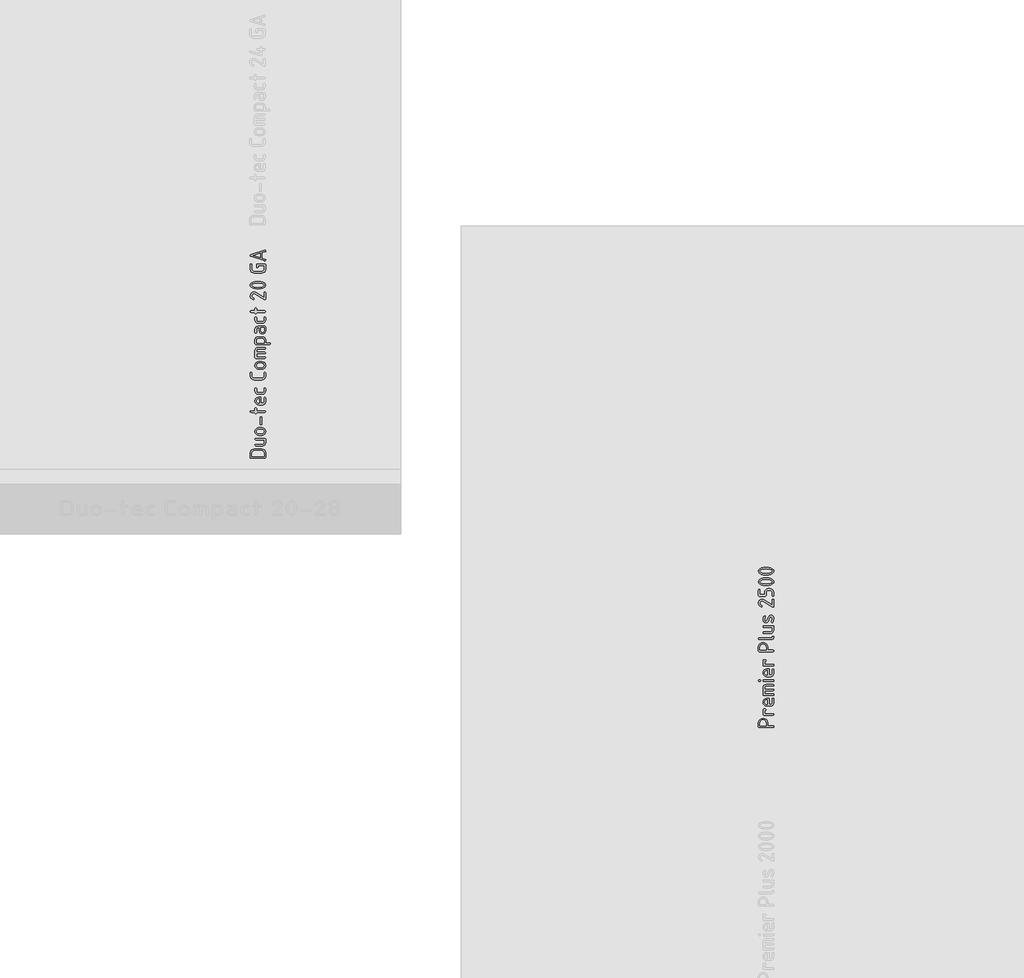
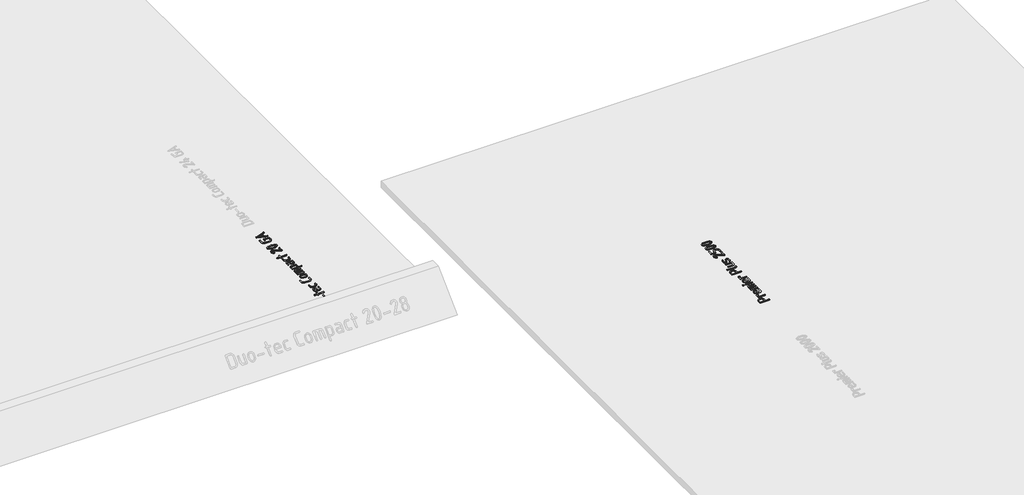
# One storey, part 27 of 37: 2 proxies.
"""IFC4 building model written with IfcOpenShell, lengths in millimetres."""

from ifc_helpers import new_model, si_unit, frame, origin, origin_with_axes, place, context, project, spatial, polyline, outline, extrude, element, save

model = new_model("IFC4")

# Units and contexts
model_context = context("Model", 3, world=origin())
ifc_project = project(units=[si_unit("LENGTHUNIT", "METRE", prefix="MILLI")], contexts=[model_context])

# Site, building, storey
site = spatial("IfcSite", under=ifc_project)
building = spatial("IfcBuilding", under=site)
storey = spatial("IfcBuildingStorey", under=building, Name="01_Стартовый вид_Площадка", Elevation=0.0)

# Proxies
placement = place(None, origin())
element("IfcBuildingElementProxy", 1, Name="150 мм", ObjectType="150 мм", at=placement, inside=storey, context=model_context, shape_type="SweptSolid", body=[
    extrude(outline(polyline([(30764.4863843, -7172.0443733), (30764.4863843, -7134.7695286), (30767.8423188, -7117.5154305), (30777.9101226, -7103.0679324), (30792.7721185, -7093.2847838), (30810.5106299, -7090.0237343), (30829.0481732, -7093.1149895), (30843.7503628, -7102.3887551), (30853.3387473, -7116.6065315), (30856.5348755, -7134.529819), (30856.5348755, -7164.1739077), (30907.9925389, -7164.1739077), (30913.50586, -7166.0915846), (30915.3436337, -7171.8446153), (30913.4559205, -7177.597646), (30907.7927809, -7179.5153229), (30772.0372371, -7179.5153229), (30766.3740975, -7177.6475855), (30764.4863843, -7172.0443733)]), holes=[polyline([(30779.8277995, -7164.1739077), (30841.1934603, -7164.1739077), (30841.1934603, -7134.7695286), (30838.9711524, -7123.3783281), (30832.3042288, -7113.8948165), (30822.4112133, -7107.4975662), (30810.5106299, -7105.3651495), (30798.6100464, -7107.4975662), (30788.7170309, -7113.8948165), (30782.0501073, -7123.3783281), (30779.8277995, -7134.7695286), (30779.8277995, -7164.1739077)])]), frame((0.0, 0.0, 11.1696829), z_axis=(0.0, 0.0, 1.0), x_axis=(1.0, 0.0, 0.0)), (0.0, 0.0, 1.0), 10.0),
    extrude(outline(polyline([(30817.9815795, -7059.3409039), (30812.3783673, -7057.423227), (30810.5106299, -7051.6701963), (30810.5106299, -7006.4849343), (30812.4283068, -7000.8817222), (30818.1813375, -6999.0139848), (30833.3629463, -6999.0139848), (30838.9961221, -7000.8817222), (30840.8738474, -7006.4849343), (30838.9961221, -7012.1181102), (30833.3629463, -7013.9958355), (30825.8520451, -7013.9958355), (30825.8520451, -7043.9994887), (30907.8726841, -7043.9994887), (30913.4758963, -7045.9171656), (30915.3436337, -7051.6701963), (30913.4758963, -7057.423227), (30907.8726841, -7059.3409039), (30817.9815795, -7059.3409039)])), frame((0.0, 0.0, 11.1696829), z_axis=(0.0, 0.0, 1.0), x_axis=(1.0, 0.0, 0.0)), (0.0, 0.0, 1.0), 10.0),
    extrude(outline(polyline([(30869.3193881, -6954.5079), (30884.6608033, -6954.5079), (30895.4677117, -6950.0732722), (30900.0022185, -6939.5260493), (30900.0022185, -6902.0114949), (30901.9198954, -6896.378319), (30907.6729261, -6894.5005937), (30913.4259568, -6896.378319), (30915.3436337, -6902.0114949), (30915.3436337, -6939.5260493), (30913.1762593, -6951.1819292), (30906.6741361, -6960.9800596), (30897.0158363, -6967.6320013), (30885.3799322, -6969.8493152), (30847.945281, -6969.8493152), (30833.5527164, -6967.0676849), (30821.4573688, -6958.7227941), (30813.2473146, -6946.482622), (30810.5106299, -6932.0151481), (30813.1674114, -6917.4378073), (30821.137756, -6905.3474537), (30832.983406, -6897.2123087), (30847.2661038, -6894.5005937), (30869.3193881, -6894.5005937), (30869.3193881, -6954.5079)]), holes=[polyline([(30823.9743198, -6932.0151481), (30825.6223234, -6940.6446941), (30830.5663341, -6947.9158857), (30837.8375257, -6952.8598965), (30846.4670717, -6954.5079), (30853.9779729, -6954.5079), (30853.9779729, -6909.5223961), (30846.4670717, -6909.5223961), (30837.8375257, -6911.1703997), (30830.5663341, -6916.1144104), (30825.6223234, -6923.385602), (30823.9743198, -6932.0151481)])]), frame((0.0, 0.0, 11.1696829), z_axis=(0.0, 0.0, 1.0), x_axis=(1.0, 0.0, 0.0)), (0.0, 0.0, 1.0), 10.0),
    extrude(outline(polyline([(30810.5106299, -6857.3456038), (30810.5106299, -6788.3092354), (30812.6780043, -6776.4086519), (30819.1801275, -6766.5156365), (30828.8384273, -6759.8487129), (30840.4743314, -6757.626405), (30907.8726841, -6757.626405), (30913.4758963, -6759.5440819), (30915.3436337, -6765.2971126), (30913.4758963, -6771.0501433), (30907.8726841, -6772.9678202), (30840.7539926, -6772.9678202), (30830.1468423, -6777.3824722), (30825.8520451, -6788.3092354), (30825.8520451, -6803.6506506), (30907.8726841, -6803.6506506), (30913.4758963, -6805.5683275), (30915.3436337, -6811.3213582), (30913.4758963, -6817.0743889), (30907.8726841, -6818.9920658), (30825.8520451, -6818.9920658), (30825.8520451, -6849.6748962), (30907.8726841, -6849.6748962), (30913.4758963, -6851.5925731), (30915.3436337, -6857.3456038), (30913.4758963, -6863.0986345), (30907.8726841, -6865.0163114), (30817.9815795, -6865.0163114), (30812.3783673, -6863.0986345), (30810.5106299, -6857.3456038)])), frame((0.0, 0.0, 11.1696829), z_axis=(0.0, 0.0, 1.0), x_axis=(1.0, 0.0, 0.0)), (0.0, 0.0, 1.0), 10.0),
    extrude(outline(polyline([(30817.821773, -6726.9435746), (30812.2185609, -6725.0258977), (30810.3508235, -6719.272867), (30812.2185609, -6713.5198363), (30817.821773, -6711.6021594), (30907.8327325, -6711.6021594), (30913.4659084, -6713.5198363), (30915.3436337, -6719.272867), (30913.4659084, -6725.0258977), (30907.8327325, -6726.9435746), (30817.821773, -6726.9435746)])), frame((0.0, 0.0, 11.1696829), z_axis=(0.0, 0.0, 1.0), x_axis=(1.0, 0.0, 0.0)), (0.0, 0.0, 1.0), 10.0),
    extrude(outline(polyline([(30779.5081867, -6726.9435746), (30771.9972855, -6726.9435746), (30766.3641096, -6725.0258977), (30764.4863843, -6719.272867), (30766.3641096, -6713.5198363), (30771.9972855, -6711.6021594), (30779.5081867, -6711.6021594), (30785.1413625, -6713.5198363), (30787.0190878, -6719.272867), (30785.1413625, -6725.0258977), (30779.5081867, -6726.9435746)])), frame((0.0, 0.0, 11.1696829), z_axis=(0.0, 0.0, 1.0), x_axis=(1.0, 0.0, 0.0)), (0.0, 0.0, 1.0), 10.0),
    extrude(outline(polyline([(30869.3193881, -6665.5779138), (30884.6608033, -6665.5779138), (30895.4677117, -6661.143286), (30900.0022185, -6650.596063), (30900.0022185, -6613.0815087), (30901.9198954, -6607.4483328), (30907.6729261, -6605.5706075), (30913.4259568, -6607.4483328), (30915.3436337, -6613.0815087), (30915.3436337, -6650.596063), (30913.1762593, -6662.2519429), (30906.6741361, -6672.0500734), (30897.0158363, -6678.7020151), (30885.3799322, -6680.919329), (30847.945281, -6680.919329), (30833.5527164, -6678.1376987), (30821.4573688, -6669.7928078), (30813.2473146, -6657.5526358), (30810.5106299, -6643.0851619), (30813.1674114, -6628.507821), (30821.137756, -6616.4174675), (30832.983406, -6608.2823225), (30847.2661038, -6605.5706075), (30869.3193881, -6605.5706075), (30869.3193881, -6665.5779138)]), holes=[polyline([(30823.9743198, -6643.0851619), (30825.6223234, -6651.7147079), (30830.5663341, -6658.9858995), (30837.8375257, -6663.9299102), (30846.4670717, -6665.5779138), (30853.9779729, -6665.5779138), (30853.9779729, -6620.5924099), (30846.4670717, -6620.5924099), (30837.8375257, -6622.2404135), (30830.5663341, -6627.1844242), (30825.6223234, -6634.4556158), (30823.9743198, -6643.0851619)])]), frame((0.0, 0.0, 11.1696829), z_axis=(0.0, 0.0, 1.0), x_axis=(1.0, 0.0, 0.0)), (0.0, 0.0, 1.0), 10.0),
    extrude(outline(polyline([(30817.9815795, -6576.0863252), (30812.3783673, -6574.1686483), (30810.5106299, -6568.4156176), (30810.5106299, -6523.2303556), (30812.4283068, -6517.6271434), (30818.1813375, -6515.759406), (30833.3629463, -6515.759406), (30838.9961221, -6517.6271434), (30840.8738474, -6523.2303556), (30838.9961221, -6528.8635315), (30833.3629463, -6530.7412568), (30825.8520451, -6530.7412568), (30825.8520451, -6560.74491), (30907.8726841, -6560.74491), (30913.4758963, -6562.6625869), (30915.3436337, -6568.4156176), (30913.4758963, -6574.1686483), (30907.8726841, -6576.0863252), (30817.9815795, -6576.0863252)])), frame((0.0, 0.0, 11.1696829), z_axis=(0.0, 0.0, 1.0), x_axis=(1.0, 0.0, 0.0)), (0.0, 0.0, 1.0), 10.0),
    extrude(outline(polyline([(30764.4863843, -6427.9857363), (30764.4863843, -6390.7108915), (30767.8423188, -6373.4567934), (30777.9101226, -6359.0092953), (30792.7721185, -6349.2261467), (30810.5106299, -6345.9650972), (30829.0481732, -6349.0563524), (30843.7503628, -6358.330118), (30853.3387473, -6372.5478944), (30856.5348755, -6390.4711819), (30856.5348755, -6420.1152707), (30907.9925389, -6420.1152707), (30913.50586, -6422.0329476), (30915.3436337, -6427.7859783), (30913.4559205, -6433.539009), (30907.7927809, -6435.4566859), (30772.0372371, -6435.4566859), (30766.3740975, -6433.5889485), (30764.4863843, -6427.9857363)]), holes=[polyline([(30779.8277995, -6420.1152707), (30841.1934603, -6420.1152707), (30841.1934603, -6390.7108915), (30838.9711524, -6379.319691), (30832.3042288, -6369.8361794), (30822.4112133, -6363.4389292), (30810.5106299, -6361.3065124), (30798.6100464, -6363.4389292), (30788.7170309, -6369.8361794), (30782.0501073, -6379.319691), (30779.8277995, -6390.7108915), (30779.8277995, -6420.1152707)])]), frame((0.0, 0.0, 11.1696829), z_axis=(0.0, 0.0, 1.0), x_axis=(1.0, 0.0, 0.0)), (0.0, 0.0, 1.0), 10.0),
    extrude(outline(polyline([(30772.0372371, -6315.2822668), (30766.3740975, -6313.3645899), (30764.4863843, -6307.6115592), (30766.3740975, -6301.8585285), (30772.0372371, -6299.9408516), (30892.7310269, -6299.9408516), (30897.5052434, -6298.0681203), (30900.2419281, -6292.4499262), (30902.9886008, -6286.8317322), (30907.7927809, -6284.9590008), (30913.4559205, -6286.8267382), (30915.3436337, -6292.4299504), (30913.8454486, -6301.6537766), (30909.3508934, -6308.9499379), (30902.1995566, -6313.6991846), (30892.7310269, -6315.2822668), (30772.0372371, -6315.2822668)])), frame((0.0, 0.0, 11.1696829), z_axis=(0.0, 0.0, 1.0), x_axis=(1.0, 0.0, 0.0)), (0.0, 0.0, 1.0), 10.0),
    extrude(outline(polyline([(30817.9815795, -6182.3233351), (30907.8726841, -6182.3233351), (30913.4758963, -6184.1810846), (30915.3436337, -6189.7543331), (30915.3436337, -6226.8294198), (30913.1762593, -6238.3254933), (30906.6741361, -6247.8839141), (30897.0158363, -6254.3261099), (30885.3799322, -6256.4735086), (30817.9815795, -6256.4735086), (30812.3783673, -6254.5558317), (30810.5106299, -6248.802801), (30812.3783673, -6243.0497703), (30817.9815795, -6241.1320934), (30885.1002709, -6241.1320934), (30895.5875665, -6236.8572719), (30900.0022185, -6226.6296618), (30900.0022185, -6197.6647503), (30817.9815795, -6197.6647503), (30812.3783673, -6195.7470734), (30810.5106299, -6189.9940427), (30812.3783673, -6184.241012), (30817.9815795, -6182.3233351)])), frame((0.0, 0.0, 11.1696829), z_axis=(0.0, 0.0, 1.0), x_axis=(1.0, 0.0, 0.0)), (0.0, 0.0, 1.0), 10.0),
    extrude(outline(polyline([(30888.8157699, -6091.9927628), (30882.6931869, -6093.580839), (30878.6281114, -6098.3450675), (30860.1704712, -6136.8584119), (30850.6420142, -6148.2146548), (30836.5191228, -6152.0000691), (30825.0929646, -6149.3233118), (30816.623225, -6141.2930398), (30812.0387786, -6130.9655506), (30810.5106299, -6118.3608202), (30812.6280648, -6102.510022), (30818.9803695, -6088.4370702), (30825.7321903, -6084.4818616), (30831.0257775, -6086.6991755), (30833.2430914, -6091.9927628), (30832.3242046, -6095.5085038), (30827.4700849, -6106.6150492), (30825.8520451, -6118.3608202), (30828.6286814, -6132.3239051), (30836.9585904, -6136.9782667), (30842.9413429, -6135.4401301), (30846.9065394, -6130.82572), (30865.5639375, -6091.9927628), (30875.0923946, -6080.726411), (30889.215286, -6076.9709604), (30901.1008876, -6079.6676936), (30909.590603, -6087.757893), (30913.905376, -6098.3151038), (30915.3436337, -6111.5290962), (30913.2261988, -6131.3750545), (30906.8738941, -6147.7651993), (30900.0022185, -6152.0000691), (30894.7086312, -6149.7827552), (30892.4913173, -6144.4891679), (30893.0506398, -6141.6526042), (30897.245558, -6130.9455748), (30900.0022185, -6111.0896286), (30897.2056064, -6096.7669793), (30888.8157699, -6091.9927628)])), frame((0.0, 0.0, 11.1696829), z_axis=(0.0, 0.0, 1.0), x_axis=(1.0, 0.0, 0.0)), (0.0, 0.0, 1.0), 10.0),
    extrude(outline(polyline([(30764.4863843, -5958.5144603), (30767.2380509, -5944.086938), (30775.4930506, -5931.9666207), (30787.6533195, -5923.7415846), (30802.1207934, -5920.9999059), (30812.9177139, -5922.7078369), (30823.8145134, -5927.8316299), (30900.0022185, -5975.0943751), (30900.0022185, -5928.5108071), (30901.9198954, -5922.8776312), (30907.6729261, -5920.9999059), (30913.4259568, -5922.8776312), (30915.3436337, -5928.5108071), (30915.3436337, -5988.5181134), (30913.4659084, -5994.1512893), (30907.8327325, -5996.0290146), (30903.4780079, -5994.7505633), (30814.8653545, -5939.7771589), (30802.4004546, -5936.0217083), (30793.7359509, -5937.6697119), (30786.4397896, -5942.6137226), (30781.480797, -5949.8849142), (30779.8277995, -5958.5144603), (30784.5420885, -5970.7496384), (30798.6849557, -5982.0459539), (30802.3205514, -5988.5181134), (30800.4428261, -5994.1512893), (30794.8096503, -5996.0290146), (30791.7333769, -5995.3098858), (30771.2981324, -5979.1394748), (30766.1893213, -5969.383793), (30764.4863843, -5958.5144603)])), frame((0.0, 0.0, 11.1696829), z_axis=(0.0, 0.0, 1.0), x_axis=(1.0, 0.0, 0.0)), (0.0, 0.0, 1.0), 10.0),
    extrude(outline(polyline([(30833.5227527, -5890.8364463), (30772.1570919, -5890.8364463), (30766.4040612, -5888.9986726), (30764.4863843, -5883.4853516), (30764.4863843, -5832.0276881), (30766.4040612, -5826.3945122), (30772.1570919, -5824.5167869), (30777.9101226, -5826.3945122), (30779.8277995, -5832.0276881), (30779.8277995, -5875.4950311), (30825.8520451, -5875.4950311), (30825.8520451, -5853.4417468), (30828.5937238, -5839.3088676), (30836.8187598, -5827.4332538), (30848.8791497, -5819.3730181), (30863.1268898, -5816.6862729), (30878.068789, -5816.6862729), (30892.3914383, -5819.4129697), (30904.4368464, -5827.5930603), (30912.6169369, -5839.5885288), (30915.3436337, -5853.7613596), (30915.3436337, -5883.4054484), (30913.4259568, -5888.9786968), (30907.6729261, -5890.8364463), (30901.9198954, -5888.9986726), (30900.0022185, -5883.4853516), (30900.0022185, -5854.0809724), (30898.3991605, -5845.5562993), (30893.5899864, -5838.4399202), (30886.4736073, -5833.6307461), (30877.9489342, -5832.0276881), (30863.2467446, -5832.0276881), (30854.772011, -5833.640734), (30847.645644, -5838.4798718), (30842.8065062, -5845.6062388), (30841.1934603, -5854.0809724), (30841.1934603, -5883.4853516), (30839.2757834, -5888.9986726), (30833.5227527, -5890.8364463)])), frame((0.0, 0.0, 11.1696829), z_axis=(0.0, 0.0, 1.0), x_axis=(1.0, 0.0, 0.0)), (0.0, 0.0, 1.0), 10.0),
    extrude(outline(polyline([(30839.915009, -5711.853269), (30865.0545546, -5713.4812968), (30886.5385286, -5718.3653802), (30908.1423574, -5730.7803405), (30913.5433146, -5739.1377163), (30915.3436337, -5748.9283558), (30913.5508056, -5758.7189953), (30908.1723211, -5767.076371), (30886.6583834, -5779.4913314), (30865.1444457, -5784.3754147), (30839.915009, -5786.0034425), (30814.6855723, -5784.3754147), (30793.1716346, -5779.4913314), (30771.6576968, -5767.076371), (30766.2792124, -5758.7189953), (30764.4863843, -5748.9283558), (30766.2867033, -5739.1377163), (30771.6876605, -5730.7803405), (30793.2914894, -5718.3653802), (30814.7754634, -5713.4812968), (30839.915009, -5711.853269)]), holes=[polyline([(30839.915009, -5727.1946842), (30804.7575992, -5731.030038), (30786.0602494, -5738.4210844), (30779.8277995, -5748.9283558), (30786.0902131, -5759.345736), (30804.877454, -5766.7068187), (30839.915009, -5770.6620273), (30875.0724188, -5766.8266735), (30893.7697686, -5759.4356271), (30900.0022185, -5748.9283558), (30893.7697686, -5738.4210844), (30875.0724188, -5731.030038), (30839.915009, -5727.1946842)])]), frame((0.0, 0.0, 11.1696829), z_axis=(0.0, 0.0, 1.0), x_axis=(1.0, 0.0, 0.0)), (0.0, 0.0, 1.0), 10.0),
    extrude(outline(polyline([(30839.915009, -5607.0202652), (30865.0545546, -5608.648293), (30886.5385286, -5613.5323763), (30908.1423574, -5625.9473367), (30913.5433146, -5634.3047124), (30915.3436337, -5644.0953519), (30913.5508056, -5653.8859914), (30908.1723211, -5662.2433672), (30886.6583834, -5674.6583275), (30865.1444457, -5679.5424109), (30839.915009, -5681.1704386), (30814.6855723, -5679.5424109), (30793.1716346, -5674.6583275), (30771.6576968, -5662.2433672), (30766.2792124, -5653.8859914), (30764.4863843, -5644.0953519), (30766.2867033, -5634.3047124), (30771.6876605, -5625.9473367), (30793.2914894, -5613.5323763), (30814.7754634, -5608.648293), (30839.915009, -5607.0202652)]), holes=[polyline([(30839.915009, -5622.3616804), (30804.7575992, -5626.1970342), (30786.0602494, -5633.5880806), (30779.8277995, -5644.0953519), (30786.0902131, -5654.5127322), (30804.877454, -5661.8738148), (30839.915009, -5665.8290234), (30875.0724188, -5661.9936696), (30893.7697686, -5654.6026233), (30900.0022185, -5644.0953519), (30893.7697686, -5633.5880806), (30875.0724188, -5626.1970342), (30839.915009, -5622.3616804)])]), frame((0.0, 0.0, 11.1696829), z_axis=(0.0, 0.0, 1.0), x_axis=(1.0, 0.0, 0.0)), (0.0, 0.0, 1.0), 10.0),
])
element("IfcBuildingElementProxy", 2, Name="150 мм", ObjectType="150 мм", at=placement, inside=storey, context=model_context, shape_type="SweptSolid", body=[
    extrude(outline(polyline([(25785.4050552, -4535.1798944), (25779.7419156, -4533.312157), (25777.8542024, -4527.7089448), (25777.8542024, -4482.9631505), (25780.5808993, -4468.4906826), (25788.7609898, -4456.4752383), (25800.9162647, -4448.3850389), (25815.5685148, -4445.6883057), (25890.9971395, -4445.6883057), (25905.4995711, -4448.4150026), (25917.6848097, -4456.5950931), (25925.9547913, -4468.6405011), (25928.7114519, -4482.9631505), (25928.7114519, -4527.7089448), (25926.8237387, -4533.312157), (25921.1605991, -4535.1798944), (25785.4050552, -4535.1798944)]), holes=[polyline([(25793.1956176, -4519.8384792), (25913.3700367, -4519.8384792), (25913.3700367, -4483.0830053), (25911.7220331, -4474.6082717), (25906.7780223, -4467.4819047), (25899.4968429, -4462.6427669), (25890.8373331, -4461.0297209), (25815.7283212, -4461.0297209), (25807.0688115, -4462.6427669), (25799.787632, -4467.4819047), (25794.8436212, -4474.6082717), (25793.1956176, -4483.0830053), (25793.1956176, -4519.8384792)])]), origin_with_axes(), (0.0, 0.0, 1.0), 10.0),
    extrude(outline(polyline([(25831.3493976, -4340.8553019), (25921.2405023, -4340.8553019), (25926.8437145, -4342.7130514), (25928.7114519, -4348.2862999), (25928.7114519, -4385.3613866), (25926.5440775, -4396.8574601), (25920.0419542, -4406.4158809), (25910.3836544, -4412.8580767), (25898.7477503, -4415.0054753), (25831.3493976, -4415.0054753), (25825.7461854, -4413.0877984), (25823.878448, -4407.3347677), (25825.7461854, -4401.581737), (25831.3493976, -4399.6640601), (25898.4680891, -4399.6640601), (25908.9553847, -4395.3892387), (25913.3700367, -4385.1616286), (25913.3700367, -4356.1967171), (25831.3493976, -4356.1967171), (25825.7461854, -4354.2790402), (25823.878448, -4348.5260095), (25825.7461854, -4342.7729788), (25831.3493976, -4340.8553019)])), origin_with_axes(), (0.0, 0.0, 1.0), 10.0),
    extrude(outline(polyline([(25891.2768007, -4310.1724715), (25861.3130992, -4310.1724715), (25846.9205345, -4307.4607565), (25834.825187, -4299.3256115), (25826.6151328, -4287.3451249), (25823.878448, -4273.0973848), (25826.5851691, -4258.6998262), (25834.7053322, -4246.7493032), (25846.770716, -4238.7040493), (25861.3130992, -4236.022298), (25891.2768007, -4236.022298), (25905.6693654, -4238.734013), (25917.7647129, -4246.869158), (25925.9747671, -4258.8496447), (25928.7114519, -4273.0973848), (25925.9747671, -4287.3451249), (25917.7647129, -4299.3256115), (25905.6693654, -4307.4607565), (25891.2768007, -4310.1724715)]), holes=[polyline([(25890.8373331, -4251.3637132), (25860.83368, -4251.3637132), (25852.2041339, -4252.9567834), (25844.9329423, -4257.7359938), (25839.9889316, -4264.7624818), (25838.340928, -4273.0973848), (25839.9889316, -4281.4322877), (25844.9329423, -4288.4587758), (25852.2041339, -4293.2379862), (25860.83368, -4294.8310563), (25890.8373331, -4294.8310563), (25899.5467824, -4293.252968), (25906.8179739, -4288.5187032), (25911.732021, -4281.507197), (25913.3700367, -4273.0973848), (25911.7220331, -4264.7624818), (25906.7780223, -4257.7359938), (25899.4968429, -4252.9567834), (25890.8373331, -4251.3637132)])]), origin_with_axes(), (0.0, 0.0, 1.0), 10.0),
    extrude(outline(polyline([(25890.3579139, -4138.1808245), (25890.3579139, -4198.1881309), (25888.440237, -4203.8213068), (25882.6872063, -4205.6990321), (25876.9341756, -4203.8213068), (25875.0164987, -4198.1881309), (25875.0164987, -4138.1808245), (25876.9341756, -4132.5476487), (25882.6872063, -4130.6699234), (25888.440237, -4132.5476487), (25890.3579139, -4138.1808245)])), origin_with_axes(), (0.0, 0.0, 1.0), 10.0),
    extrude(outline(polyline([(25839.2198632, -4085.1650486), (25839.2198632, -4092.6759498), (25837.3021863, -4098.3091257), (25831.5491556, -4100.186851), (25825.7961249, -4098.3091257), (25823.878448, -4092.6759498), (25823.878448, -4085.1650486), (25785.52491, -4085.1650486), (25779.7718793, -4083.2473717), (25777.8542024, -4077.494341), (25779.7718793, -4071.7413103), (25785.52491, -4069.8236334), (25823.878448, -4069.8236334), (25823.878448, -4047.2909298), (25825.7961249, -4041.6877176), (25831.5491556, -4039.8199802), (25837.3021863, -4041.6877176), (25839.2198632, -4047.2909298), (25839.2198632, -4069.8236334), (25921.2405023, -4069.8236334), (25926.8437145, -4071.7413103), (25928.7114519, -4077.494341), (25926.8437145, -4083.2473717), (25921.2405023, -4085.1650486), (25839.2198632, -4085.1650486)])), origin_with_axes(), (0.0, 0.0, 1.0), 10.0),
    extrude(outline(polyline([(25882.6872063, -3995.6734599), (25898.0286215, -3995.6734599), (25908.8355298, -3991.2388321), (25913.3700367, -3980.6916092), (25913.3700367, -3943.1770548), (25915.2877136, -3937.5438789), (25921.0407443, -3935.6661536), (25926.793775, -3937.5438789), (25928.7114519, -3943.1770548), (25928.7114519, -3980.6916092), (25926.5440775, -3992.3474891), (25920.0419542, -4002.1456195), (25910.3836544, -4008.7975612), (25898.7477503, -4011.0148751), (25861.3130992, -4011.0148751), (25846.9205345, -4008.2332448), (25834.825187, -3999.888354), (25826.6151328, -3987.6481819), (25823.878448, -3973.180708), (25826.5352296, -3958.6033672), (25834.5055742, -3946.5130136), (25846.3512242, -3938.3778686), (25860.6339219, -3935.6661536), (25882.6872063, -3935.6661536), (25882.6872063, -3995.6734599)]), holes=[polyline([(25837.3421379, -3973.180708), (25838.9901415, -3981.810254), (25843.9341523, -3989.0814456), (25851.2053439, -3994.0254564), (25859.8348899, -3995.6734599), (25867.3457911, -3995.6734599), (25867.3457911, -3950.687956), (25859.8348899, -3950.687956), (25851.2053439, -3952.3359596), (25843.9341523, -3957.2799703), (25838.9901415, -3964.5511619), (25837.3421379, -3973.180708)])]), origin_with_axes(), (0.0, 0.0, 1.0), 10.0),
    extrude(outline(polyline([(25854.0419076, -3890.8404561), (25898.5479923, -3890.8404561), (25908.9953363, -3886.4058283), (25913.3700367, -3875.8586053), (25913.3700367, -3853.3259017), (25915.2877136, -3847.7226895), (25921.0407443, -3845.8549522), (25926.793775, -3847.7226895), (25928.7114519, -3853.3259017), (25928.7114519, -3875.8586053), (25926.5440775, -3887.5144852), (25920.0419542, -3897.3126156), (25910.3836544, -3903.9645574), (25898.7477503, -3906.1818713), (25853.8421496, -3906.1818713), (25842.2062455, -3903.9645574), (25832.5479457, -3897.3126156), (25826.0458224, -3887.5144852), (25823.878448, -3875.8586053), (25823.878448, -3853.3259017), (25825.7961249, -3847.7226895), (25831.5491556, -3845.8549522), (25837.3021863, -3847.7226895), (25839.2198632, -3853.3259017), (25839.2198632, -3875.8586053), (25843.5546121, -3886.4657557), (25854.0419076, -3890.8404561)])), origin_with_axes(), (0.0, 0.0, 1.0), 10.0),
    extrude(outline(polyline([(25777.8542024, -3697.7144117), (25779.7718793, -3692.0812358), (25785.52491, -3690.2035105), (25791.2779407, -3692.0812358), (25793.1956176, -3697.7144117), (25793.1956176, -3727.7180648), (25794.8436212, -3736.4225201), (25799.787632, -3743.6787298), (25807.0688115, -3748.577795), (25815.7283212, -3750.2108168), (25890.8373331, -3750.2108168), (25899.4968429, -3748.5628132), (25906.7780223, -3743.6188024), (25911.7220331, -3736.3476109), (25913.3700367, -3727.7180648), (25913.3700367, -3697.7144117), (25915.2877136, -3692.0812358), (25921.0407443, -3690.2035105), (25926.793775, -3692.0812358), (25928.7114519, -3697.7144117), (25928.7114519, -3727.7180648), (25925.9547913, -3742.1855387), (25917.6848097, -3754.4257108), (25905.4995711, -3762.7706017), (25890.9971395, -3765.552232), (25815.5685148, -3765.552232), (25801.0660832, -3762.7706017), (25788.8808446, -3754.4257108), (25780.610863, -3742.1855387), (25777.8542024, -3727.7180648), (25777.8542024, -3697.7144117)])), origin_with_axes(), (0.0, 0.0, 1.0), 10.0),
    extrude(outline(polyline([(25891.2768007, -3660.7192281), (25861.3130992, -3660.7192281), (25846.9205345, -3658.0075131), (25834.825187, -3649.8723682), (25826.6151328, -3637.8918815), (25823.878448, -3623.6441414), (25826.5851691, -3609.2465828), (25834.7053322, -3597.2960598), (25846.770716, -3589.250806), (25861.3130992, -3586.5690547), (25891.2768007, -3586.5690547), (25905.6693654, -3589.2807697), (25917.7647129, -3597.4159146), (25925.9747671, -3609.3964013), (25928.7114519, -3623.6441414), (25925.9747671, -3637.8918815), (25917.7647129, -3649.8723682), (25905.6693654, -3658.0075131), (25891.2768007, -3660.7192281)]), holes=[polyline([(25890.8373331, -3601.9104699), (25860.83368, -3601.9104699), (25852.2041339, -3603.50354), (25844.9329423, -3608.2827504), (25839.9889316, -3615.3092384), (25838.340928, -3623.6441414), (25839.9889316, -3631.9790444), (25844.9329423, -3639.0055324), (25852.2041339, -3643.7847428), (25860.83368, -3645.3778129), (25890.8373331, -3645.3778129), (25899.5467824, -3643.7997246), (25906.8179739, -3639.0654598), (25911.732021, -3632.0539536), (25913.3700367, -3623.6441414), (25911.7220331, -3615.3092384), (25906.7780223, -3608.2827504), (25899.4968429, -3603.50354), (25890.8373331, -3601.9104699)])]), origin_with_axes(), (0.0, 0.0, 1.0), 10.0),
    extrude(outline(polyline([(25823.878448, -3548.2155167), (25823.878448, -3479.1791483), (25826.0458224, -3467.2785648), (25832.5479457, -3457.3855494), (25842.2062455, -3450.7186258), (25853.8421496, -3448.4963179), (25921.2405023, -3448.4963179), (25926.8437145, -3450.4139948), (25928.7114519, -3456.1670255), (25926.8437145, -3461.9200562), (25921.2405023, -3463.8377331), (25854.1218108, -3463.8377331), (25843.5146605, -3468.2523851), (25839.2198632, -3479.1791483), (25839.2198632, -3494.5205635), (25921.2405023, -3494.5205635), (25926.8437145, -3496.4382404), (25928.7114519, -3502.1912711), (25926.8437145, -3507.9443018), (25921.2405023, -3509.8619787), (25839.2198632, -3509.8619787), (25839.2198632, -3540.5448091), (25921.2405023, -3540.5448091), (25926.8437145, -3542.462486), (25928.7114519, -3548.2155167), (25926.8437145, -3553.9685474), (25921.2405023, -3555.8862243), (25831.3493976, -3555.8862243), (25825.7461854, -3553.9685474), (25823.878448, -3548.2155167)])), origin_with_axes(), (0.0, 0.0, 1.0), 10.0),
    extrude(outline(polyline([(25831.4293008, -3417.8134875), (25825.7661612, -3415.955738), (25823.878448, -3410.3824895), (25823.878448, -3373.3074028), (25826.0458224, -3361.8113293), (25832.5479457, -3352.2529085), (25842.2062455, -3345.8107127), (25853.8421496, -3343.663314), (25898.7477503, -3343.663314), (25910.3087452, -3345.7957308), (25919.9820268, -3352.1929811), (25926.5290956, -3361.6764926), (25928.7114519, -3373.0676932), (25928.7114519, -3402.4720723), (25967.0649899, -3402.4720723), (25972.8180206, -3404.3897492), (25974.7356975, -3410.1427799), (25972.8479843, -3415.8958106), (25967.1848447, -3417.8134875), (25831.4293008, -3417.8134875)]), holes=[polyline([(25839.2198632, -3402.4720723), (25913.3700367, -3402.4720723), (25913.3700367, -3373.5071608), (25909.0352879, -3363.2395991), (25898.5479923, -3359.0047292), (25854.0419076, -3359.0047292), (25843.4946847, -3363.1796717), (25839.2198632, -3373.5071608), (25839.2198632, -3402.4720723)])]), origin_with_axes(), (0.0, 0.0, 1.0), 10.0),
    extrude(outline(polyline([(25928.7114519, -3284.1753786), (25926.489144, -3295.7913069), (25919.8222204, -3305.4695825), (25909.929205, -3312.0016694), (25898.0286215, -3314.1790317), (25882.5673515, -3310.1838715), (25871.1511812, -3299.4269026), (25867.3457911, -3284.1753786), (25867.3457911, -3254.1717254), (25853.2828272, -3254.1717254), (25843.2749508, -3258.4864984), (25839.2198632, -3269.1535762), (25839.2198632, -3299.1572293), (25837.3021863, -3304.7904052), (25831.5491556, -3306.6681305), (25825.7961249, -3304.7904052), (25823.878448, -3299.1572293), (25823.878448, -3269.1535762), (25826.0458224, -3257.4727265), (25832.5479457, -3247.6795901), (25842.2062455, -3241.0426302), (25853.8421496, -3238.8303102), (25921.2405023, -3238.8303102), (25926.8437145, -3240.7479871), (25928.7114519, -3246.5010178), (25928.7114519, -3284.1753786)]), holes=[polyline([(25882.6872063, -3254.1717254), (25882.6872063, -3284.1753786), (25887.1617857, -3294.7825289), (25898.0286215, -3299.1572293), (25908.8355298, -3294.7226015), (25913.3700367, -3284.1753786), (25913.3700367, -3254.1717254), (25882.6872063, -3254.1717254)])]), origin_with_axes(), (0.0, 0.0, 1.0), 10.0),
    extrude(outline(polyline([(25854.0419076, -3192.8060646), (25898.5479923, -3192.8060646), (25908.9953363, -3188.3714368), (25913.3700367, -3177.8242138), (25913.3700367, -3155.2915103), (25915.2877136, -3149.6882981), (25921.0407443, -3147.8205607), (25926.793775, -3149.6882981), (25928.7114519, -3155.2915103), (25928.7114519, -3177.8242138), (25926.5440775, -3189.4800937), (25920.0419542, -3199.2782241), (25910.3836544, -3205.9301659), (25898.7477503, -3208.1474798), (25853.8421496, -3208.1474798), (25842.2062455, -3205.9301659), (25832.5479457, -3199.2782241), (25826.0458224, -3189.4800937), (25823.878448, -3177.8242138), (25823.878448, -3155.2915103), (25825.7961249, -3149.6882981), (25831.5491556, -3147.8205607), (25837.3021863, -3149.6882981), (25839.2198632, -3155.2915103), (25839.2198632, -3177.8242138), (25843.5546121, -3188.4313642), (25854.0419076, -3192.8060646)])), origin_with_axes(), (0.0, 0.0, 1.0), 10.0),
    extrude(outline(polyline([(25839.2198632, -3103.314476), (25839.2198632, -3110.8253771), (25837.3021863, -3116.458553), (25831.5491556, -3118.3362783), (25825.7961249, -3116.458553), (25823.878448, -3110.8253771), (25823.878448, -3103.314476), (25785.52491, -3103.314476), (25779.7718793, -3101.3967991), (25777.8542024, -3095.6437684), (25779.7718793, -3089.8907377), (25785.52491, -3087.9730608), (25823.878448, -3087.9730608), (25823.878448, -3065.4403572), (25825.7961249, -3059.837145), (25831.5491556, -3057.9694076), (25837.3021863, -3059.837145), (25839.2198632, -3065.4403572), (25839.2198632, -3087.9730608), (25921.2405023, -3087.9730608), (25926.8437145, -3089.8907377), (25928.7114519, -3095.6437684), (25926.8437145, -3101.3967991), (25921.2405023, -3103.314476), (25839.2198632, -3103.314476)])), origin_with_axes(), (0.0, 0.0, 1.0), 10.0),
    extrude(outline(polyline([(25777.8542024, -2940.8712619), (25780.605869, -2926.4437396), (25788.8608688, -2914.3234223), (25801.0211377, -2906.0983862), (25815.4886116, -2903.3567076), (25826.2855321, -2905.0646385), (25837.1823315, -2910.1884315), (25913.3700367, -2957.4511768), (25913.3700367, -2910.8676087), (25915.2877136, -2905.2344329), (25921.0407443, -2903.3567076), (25926.793775, -2905.2344329), (25928.7114519, -2910.8676087), (25928.7114519, -2970.8749151), (25926.8337266, -2976.508091), (25921.2005507, -2978.3858163), (25916.8458261, -2977.107365), (25828.2331727, -2922.1339605), (25815.7682728, -2918.3785099), (25807.1037691, -2920.0265135), (25799.8076078, -2924.9705243), (25794.8486152, -2932.2417159), (25793.1956176, -2940.8712619), (25797.9099067, -2953.10644), (25812.0527738, -2964.4027555), (25815.6883696, -2970.8749151), (25813.8106443, -2976.508091), (25808.1774684, -2978.3858163), (25805.1011951, -2977.6666874), (25784.6659506, -2961.4962765), (25779.5571395, -2951.7405946), (25777.8542024, -2940.8712619)])), origin_with_axes(), (0.0, 0.0, 1.0), 10.0),
    extrude(outline(polyline([(25853.2828272, -2799.0430745), (25878.4223728, -2800.6711023), (25899.9063468, -2805.5551857), (25921.5101756, -2817.970146), (25926.9111328, -2826.3275218), (25928.7114519, -2836.1181613), (25926.9186237, -2845.9088007), (25921.5401393, -2854.2661765), (25900.0262016, -2866.6811368), (25878.5122639, -2871.5652202), (25853.2828272, -2873.193248), (25828.0533904, -2871.5652202), (25806.5394527, -2866.6811368), (25785.025515, -2854.2661765), (25779.6470306, -2845.9088007), (25777.8542024, -2836.1181613), (25779.6545215, -2826.3275218), (25785.0554787, -2817.970146), (25806.6593075, -2805.5551857), (25828.1432816, -2800.6711023), (25853.2828272, -2799.0430745)]), holes=[polyline([(25853.2828272, -2814.3844897), (25818.1254173, -2818.2198435), (25799.4280676, -2825.6108899), (25793.1956176, -2836.1181613), (25799.4580313, -2846.5355415), (25818.2452721, -2853.8966242), (25853.2828272, -2857.8518328), (25888.440237, -2854.016479), (25907.1375868, -2846.6254326), (25913.3700367, -2836.1181613), (25907.1375868, -2825.6108899), (25888.440237, -2818.2198435), (25853.2828272, -2814.3844897)])]), origin_with_axes(), (0.0, 0.0, 1.0), 10.0),
    extrude(outline(polyline([(25913.3700367, -2679.8274939), (25913.3700367, -2643.07202), (25854.5612784, -2643.07202), (25854.5612784, -2658.0938224), (25852.6436015, -2663.6970346), (25846.8905708, -2665.564772), (25841.1375401, -2663.6970346), (25839.2198632, -2658.0938224), (25839.2198632, -2635.4013124), (25841.0876006, -2629.6482817), (25846.6908128, -2627.7306048), (25921.2405023, -2627.7306048), (25926.8437145, -2629.5983422), (25928.7114519, -2635.2015544), (25928.7114519, -2679.9473487), (25925.9547913, -2694.2699981), (25917.6848097, -2706.3154061), (25905.4995711, -2714.4954966), (25890.9971395, -2717.2221935), (25815.5685148, -2717.2221935), (25801.0660832, -2714.4954966), (25788.8808446, -2706.3154061), (25780.610863, -2694.2699981), (25777.8542024, -2679.9473487), (25777.8542024, -2635.2015544), (25779.7718793, -2629.5983422), (25785.52491, -2627.7306048), (25791.2779407, -2629.5883543), (25793.1956176, -2635.1616028), (25793.1956176, -2679.6277359), (25794.8436212, -2688.252288), (25799.787632, -2695.4285945), (25807.0688115, -2700.2677323), (25815.7283212, -2701.8807783), (25890.8373331, -2701.8807783), (25899.5467824, -2700.2777202), (25906.8179739, -2695.4685461), (25911.732021, -2688.352167), (25913.3700367, -2679.8274939)])), origin_with_axes(), (0.0, 0.0, 1.0), 10.0),
    extrude(outline(polyline([(25921.1605991, -2492.374577), (25926.8237387, -2494.2523023), (25928.7114519, -2499.8854782), (25927.4030369, -2504.4099971), (25923.477792, -2507.036815), (25890.3579139, -2517.8237475), (25890.3579139, -2571.9182167), (25923.477792, -2582.7451009), (25927.4030369, -2585.3719187), (25928.7114519, -2589.8964377), (25926.8237387, -2595.5296136), (25921.1605991, -2597.4073389), (25918.763503, -2597.0477744), (25783.926846, -2552.3818833), (25779.3723633, -2549.4853922), (25777.8542024, -2544.8709821), (25779.3124359, -2540.3164995), (25783.6871363, -2537.5198873), (25918.763503, -2492.7341414), (25921.1605991, -2492.374577)]), holes=[polyline([(25808.8566457, -2544.8709821), (25875.0164987, -2566.9242665), (25875.0164987, -2522.8576494), (25808.8566457, -2544.8709821)])]), origin_with_axes(), (0.0, 0.0, 1.0), 10.0),
])

save(model, "model.ifc")
